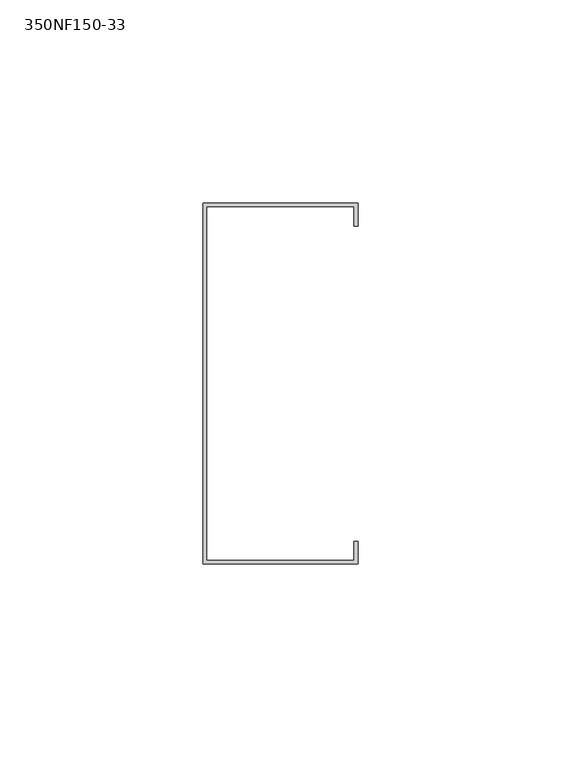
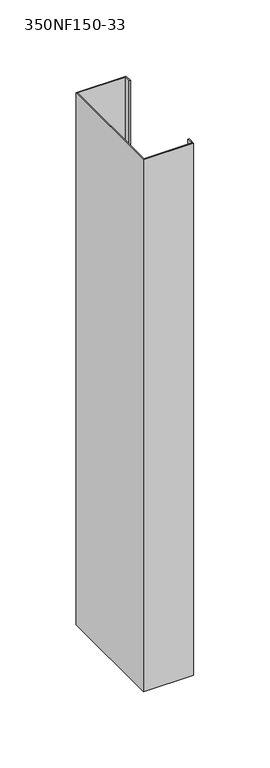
"""IFC4 building model written with IfcOpenShell, lengths in millimetres: column geometry, BIMSF-SSMA-S-Column : 350NF150-33."""

from ifc_helpers import new_model, si_unit, frame, origin, place, context, project, spatial, polyline, outline, extrude, source, transform, mapped, element, save


def column_350nf150_33_ca50317c(model_context):
    return source(origin(), model_context, "Body", "SweptSolid", [
        extrude(outline(polyline([(-11.9977877, -55.1871249), (-11.9977877, 33.7128751), (26.1022123, 33.7128751), (26.1022123, 28.0553593), (25.2198965, 28.0553593), (25.2198965, 32.8305593), (-11.115472, 32.8305593), (-11.115472, -54.3048092), (25.2198965, -54.3048092), (25.2198965, -49.5296092), (26.1022123, -49.5296092), (26.1022123, -55.1871249), (-11.9977877, -55.1871249)])), frame((0.0, 0.0, 5096.7679688), z_axis=(0.0, 0.0, 1.0), x_axis=(1.0, 0.0, 0.0)), (0.0, 0.0, 1.0), 426.8390625),
    ])


if __name__ == "__main__":
    model = new_model("IFC4")
    model_context = context("Model", 3, world=origin())
    ifc_project = project(units=[si_unit("LENGTHUNIT", "METRE", prefix="MILLI")], contexts=[model_context])
    site = spatial("IfcSite", under=ifc_project)
    building = spatial("IfcBuilding", under=site)
    placement = place(None, origin())
    column_350nf150_33_shape = column_350nf150_33_ca50317c(model_context)
    element("IfcColumn", 1, ObjectType="BIMSF-SSMA-S-Column : 350NF150-33", at=placement, inside=building, context=model_context, shape_type="MappedRepresentation", body=[
        mapped(column_350nf150_33_shape, transform((0.0, 0.0, 0.0), x_axis=(1.0, 0.0, 0.0), y_axis=(0.0, 1.0, 0.0), z_axis=(0.0, 0.0, 1.0))),
    ])
    save(model, "model.ifc")
